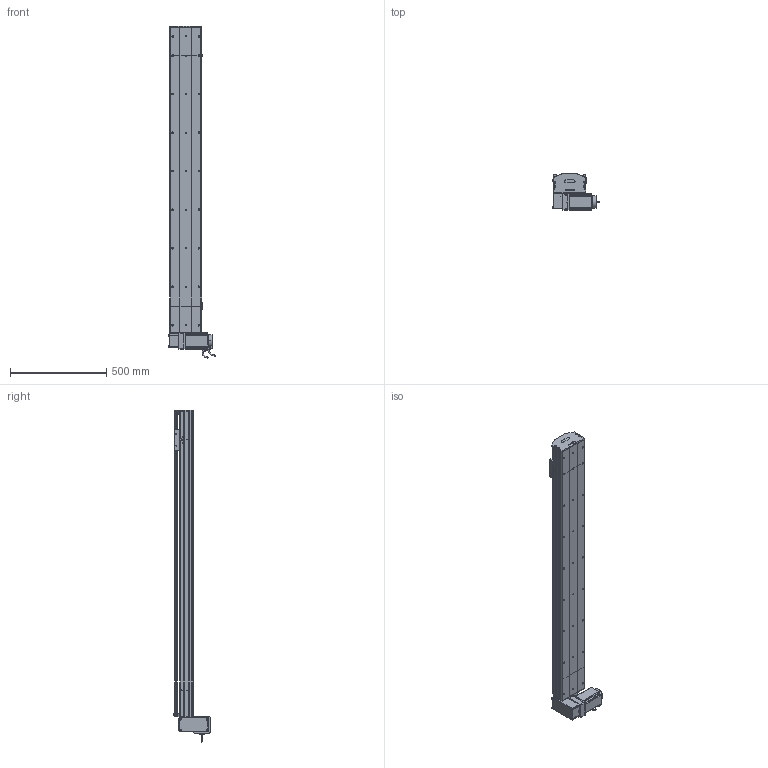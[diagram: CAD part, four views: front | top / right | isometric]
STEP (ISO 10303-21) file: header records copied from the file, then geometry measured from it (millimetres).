
FILE_DESCRIPTION (( 'STEP AP214' ), '1' );
FILE_NAME ('D17 TBN RU S1300.STEP', '2010-06-30T10:52:34', ( 'Christophe Gaillard' ), ( 'SGA' ), 'SwSTEP 2.0', 'SolidWorks 2010', '' );
FILE_SCHEMA (( 'AUTOMOTIVE_DESIGN' ));
Length unit declared in the file: millimetre
Products named in the file (40): poulie tail_Default; plaque de  bout tail D17B_Default; couvercle D17B_Default; Couroie tail D17B_Default; chariot D17 TBN; vis M5 L8 90°_Default; vis M5 L12_Default; Chariot D17 TBN; vis M5 L25_Default; guide D17; course 1300 D17B_Default; D17 TBN RU S1300; corpl head D17 _Default; Couroie+ rail D17 Course 1300 ; couvercle D17B course L1300_Default; corp D17B 1300_Default; corps 90BLDC125A-640; Head RU D17B_Default; couvercle D17B head_Default; codeur 90BLDC125-640; avant 90BLDC125A-640; Moteur motionking 90BLDC125A-640; couroie head D17_Default; Arbre+rail head D17B; vis M5 L5_Default; cache D17_Default; cache arbre D17_Default; poulie head_Default; plaque de  bout head D17B RU_Default; Conecteur2_Default; vis M5 L70_Default; Plaque racord D17_Default; Conecteur_Default; Vis M5 L16-2_Default; vis M5 L16_Default; Renvoi RU_Default; corp tail D17B+100_Default; Tail D17B+100_Default; tete d''axe poulie D17B; Rail D17B
Assembly tree (66 placements, depth 4):
  D17 TBN RU S1300
    Head RU D17B_Default
      couvercle D17B head_Default
      vis M5 L16_Default  x2
      vis M5 L70_Default  x4
      vis M5 L12_Default  x8
      Plaque racord D17_Default
      Vis M5 L16-2_Default  x4
      Renvoi RU_Default
      vis M5 L25_Default  x2
      cache D17_Default  x2
      Arbre+rail head D17B
      plaque de  bout head D17B RU_Default
      vis M5 L5_Default  x4
      corpl head D17 _Default
      poulie head_Default
      couroie head D17_Default
      Moteur motionking 90BLDC125A-640
        Conecteur_Default
        avant 90BLDC125A-640
        codeur 90BLDC125-640
        corps 90BLDC125A-640
        Conecteur2_Default
      cache arbre D17_Default
    course 1300 D17B_Default
      corp D17B 1300_Default
      couvercle D17B course L1300_Default
      Couroie+ rail D17 Course 1300 
    Tail D17B+100_Default
      Rail D17B
      vis M5 L12_Default  x4
      corp tail D17B+100_Default
      tete d''axe poulie D17B
      couvercle D17B_Default
      plaque de  bout tail D17B_Default
      Couroie tail D17B_Default
      vis M5 L8 90°_Default  x2
      poulie tail_Default
      vis M5 L25_Default  x2
    chariot D17 TBN
      guide D17  x2
      Chariot D17 TBN
Bounding box: 245.2 x 188.65 x 1723.95 mm (x, y, z)
Volume: 10554934.3 mm3; surface area: 2990586.6 mm2
Topology: 89 solids, 89 shells, 2559 faces, 6491 edges, 4186 vertices
Faces by surface type: plane 1537, cylinder 725, bspline 136, cone 80, torus 77, sphere 4
Entity records: 82581 total; most frequent: CARTESIAN_POINT 24705, ORIENTED_EDGE 10154, DIRECTION 9598, EDGE_CURVE 5077, LINE 3412, VECTOR 3412, VERTEX_POINT 3330, AXIS2_PLACEMENT_3D 3093
